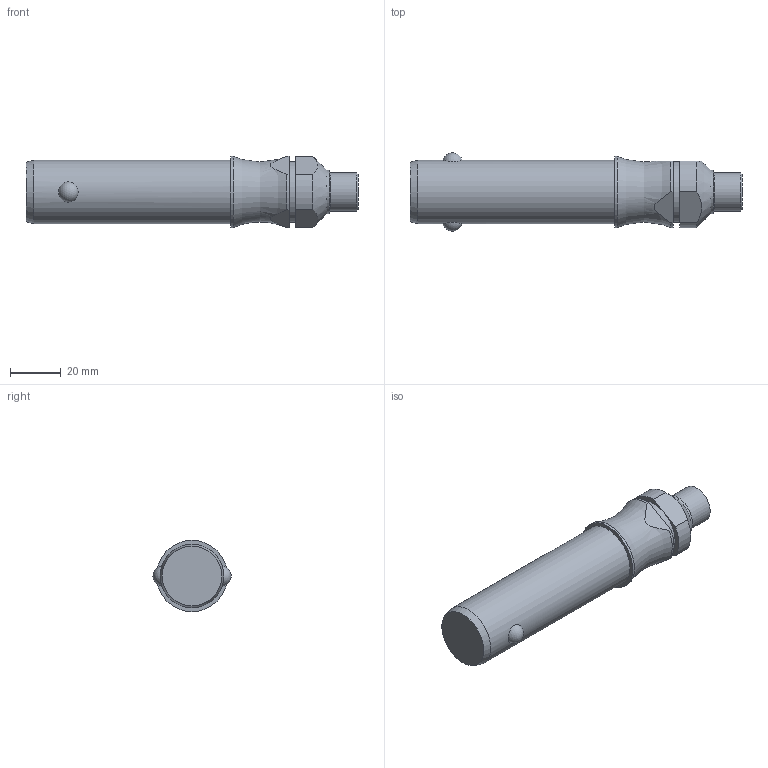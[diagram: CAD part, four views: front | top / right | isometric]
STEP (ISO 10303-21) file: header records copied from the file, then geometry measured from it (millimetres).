
FILE_DESCRIPTION( ( 'STEP AP203' ), '1' );
FILE_NAME( 'C:/Temp/Ganter_Step_05_03_2020/data/3_1/gn113_3/Stainless Steel-Ball lock pin GN 113.3-25-60 (deactivated).stp', '2020-03-12T08:19:09', ( 'License CC BY-ND 4.0' ), ( 'CADENAS' ), ' ', 'PARTsolutions', ' ' );
FILE_SCHEMA( ( 'CONFIG_CONTROL_DESIGN' ) );
Length unit declared in the file: millimetre
Products named in the file (1): _Stainless Steel-Ball lock pin GN 113.3-25-60 (deactivated)
Bounding box: 130.6 x 30.75 x 28 mm (x, y, z)
Volume: 60391.2 mm3; surface area: 11108.3 mm2
Topology: 1 solids, 1 shells, 29 faces, 62 edges, 40 vertices
Faces by surface type: plane 11, cylinder 11, cone 4, sphere 2, torus 1
Full cylindrical faces by diameter (mm): 15 x1, 17 x1, 24 x1, 25 x1, 28 x1
Entity records: 1006 total; most frequent: CARTESIAN_POINT 376, DIRECTION 126, ORIENTED_EDGE 100, AXIS2_PLACEMENT_3D 54, EDGE_CURVE 50, EDGE_LOOP 44, VERTEX_POINT 38, FACE_OUTER_BOUND 35
